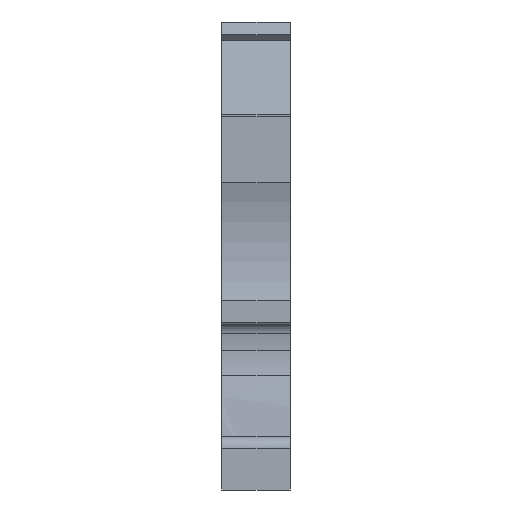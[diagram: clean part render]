
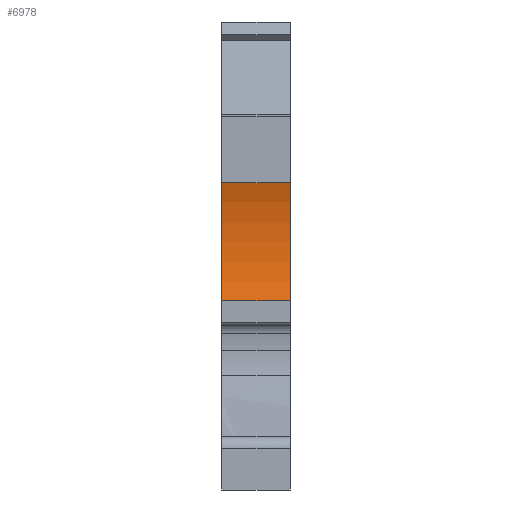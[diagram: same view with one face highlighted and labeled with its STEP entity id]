
A CAD part, front view. The second image highlights one B-rep face of the part: STEP entity #6978.
In plain terms, the highlighted cylindrical face has radius 14.5 mm (diameter 29 mm), a partial arc.
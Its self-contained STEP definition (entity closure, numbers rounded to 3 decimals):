
#456=CARTESIAN_POINT('',(0.,0.5,14.247));
#457=VERTEX_POINT('',#456);
#464=CARTESIAN_POINT('',(0.,1.201,18.7));
#465=VERTEX_POINT('',#464);
#466=CARTESIAN_POINT('',(0.,-13.299,18.7));
#467=DIRECTION('',(-1.,-0.,-0.));
#468=DIRECTION('',(0.,-1.,0.));
#469=AXIS2_PLACEMENT_3D('',#466,#467,#468);
#470=CIRCLE('',#469,14.5);
#471=EDGE_CURVE('',#465,#457,#470,.T.);
#473=CARTESIAN_POINT('',(0.,0.5,23.153));
#474=VERTEX_POINT('',#473);
#475=CARTESIAN_POINT('',(0.,-13.299,18.7));
#476=DIRECTION('',(-1.,-0.,-0.));
#477=DIRECTION('',(0.,-1.,0.));
#478=AXIS2_PLACEMENT_3D('',#475,#476,#477);
#479=CIRCLE('',#478,14.5);
#480=EDGE_CURVE('',#474,#465,#479,.T.);
#1433=CARTESIAN_POINT('',(5.15,0.5,23.153));
#1434=VERTEX_POINT('',#1433);
#1441=CARTESIAN_POINT('',(5.15,1.201,18.7));
#1442=VERTEX_POINT('',#1441);
#1443=CARTESIAN_POINT('',(5.15,-13.299,18.7));
#1444=DIRECTION('',(-1.,-0.,-0.));
#1445=DIRECTION('',(0.,-1.,0.));
#1446=AXIS2_PLACEMENT_3D('',#1443,#1444,#1445);
#1447=CIRCLE('',#1446,14.5);
#1448=EDGE_CURVE('',#1434,#1442,#1447,.T.);
#1450=CARTESIAN_POINT('',(5.15,0.5,14.247));
#1451=VERTEX_POINT('',#1450);
#1452=CARTESIAN_POINT('',(5.15,-13.299,18.7));
#1453=DIRECTION('',(-1.,-0.,-0.));
#1454=DIRECTION('',(0.,-1.,0.));
#1455=AXIS2_PLACEMENT_3D('',#1452,#1453,#1454);
#1456=CIRCLE('',#1455,14.5);
#1457=EDGE_CURVE('',#1442,#1451,#1456,.T.);
#4629=CARTESIAN_POINT('',(0.,0.5,14.247));
#4630=DIRECTION('',(1.,-0.,-0.));
#4631=VECTOR('',#4630,5.15);
#4632=LINE('',#4629,#4631);
#4633=EDGE_CURVE('',#457,#1451,#4632,.T.);
#6960=CARTESIAN_POINT('',(5.665,-13.299,18.7));
#6961=DIRECTION('',(1.,0.,0.));
#6962=DIRECTION('',(0.,-1.,0.));
#6963=AXIS2_PLACEMENT_3D('',#6960,#6961,#6962);
#6964=CYLINDRICAL_SURFACE('',#6963,14.5);
#6965=ORIENTED_EDGE('',*,*,#480,.T.);
#6966=ORIENTED_EDGE('',*,*,#471,.T.);
#6967=ORIENTED_EDGE('',*,*,#4633,.T.);
#6968=ORIENTED_EDGE('',*,*,#1457,.F.);
#6969=ORIENTED_EDGE('',*,*,#1448,.F.);
#6970=CARTESIAN_POINT('',(5.15,0.5,23.153));
#6971=DIRECTION('',(-1.,-0.,-0.));
#6972=VECTOR('',#6971,5.15);
#6973=LINE('',#6970,#6972);
#6974=EDGE_CURVE('',#1434,#474,#6973,.T.);
#6975=ORIENTED_EDGE('',*,*,#6974,.T.);
#6976=EDGE_LOOP('',(#6965,#6966,#6967,#6968,#6969,#6975));
#6977=FACE_BOUND('',#6976,.T.);
#6978=ADVANCED_FACE('',(#6977),#6964,.F.);
